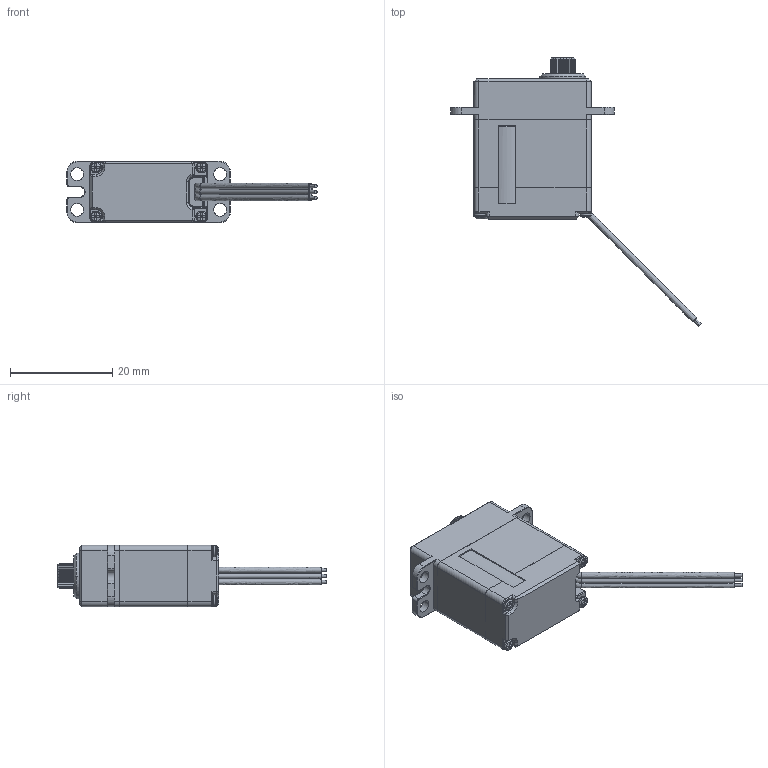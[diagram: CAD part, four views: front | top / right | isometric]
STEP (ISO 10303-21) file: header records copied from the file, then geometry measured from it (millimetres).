
FILE_DESCRIPTION((''),'2;1');
FILE_NAME('DDJ-9GCNC-A20-CCX2','2025-08-28T',('扂'),(''),'PRO/ENGINEER BY PARAMETRIC TECHNOLOGY CORPORATION, 2010280','PRO/ENGINEER BY PARAMETRIC TECHNOLOGY CORPORATION, 2010280','');
FILE_SCHEMA(('CONFIG_CONTROL_DESIGN'));
Length unit declared in the file: millimetre
Products named in the file (1): DDJ-9GCNC-A20-CCX2
Bounding box: 49 x 52.64 x 12 mm (x, y, z)
Volume: 7709.9 mm3; surface area: 3309 mm2
Topology: 1 solids, 1 shells, 685 faces, 1805 edges, 1104 vertices
Faces by surface type: plane 319, cylinder 228, cone 75, torus 26, bspline 21, sphere 16
Entity records: 23961 total; most frequent: CARTESIAN_POINT 7326, ORIENTED_EDGE 3570, DIRECTION 3363, EDGE_CURVE 1785, AXIS2_PLACEMENT_3D 1173, VERTEX_POINT 1104, VECTOR 1017, LINE 1017
